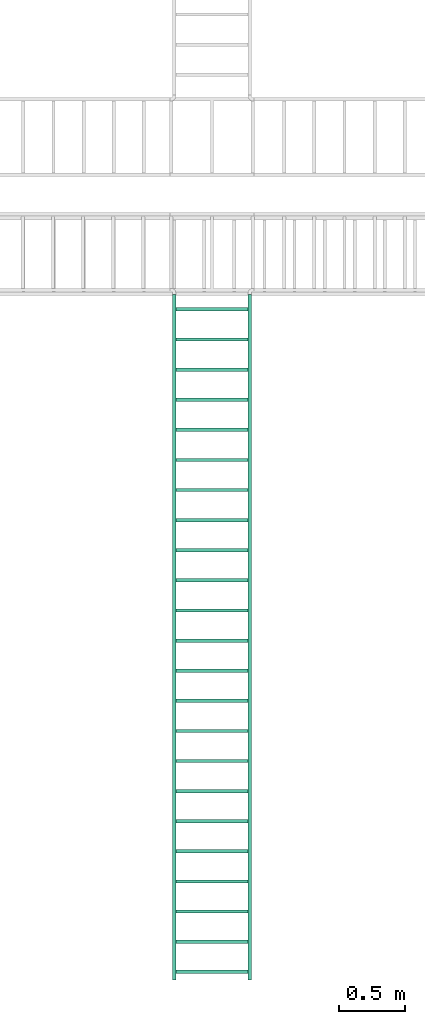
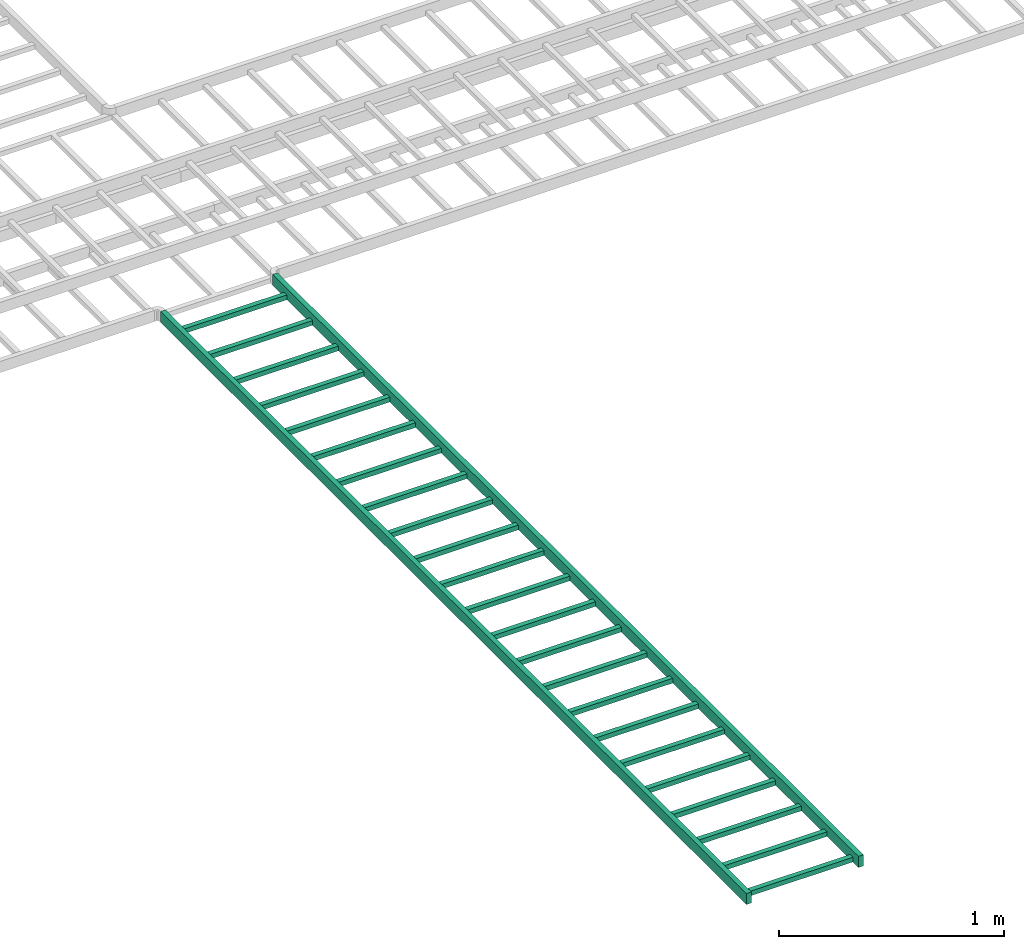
# One storey, part 3 of 7: 1 flow segment.
"""IFC2X3 building model written with IfcOpenShell, lengths in millimetres."""

from ifc_helpers import new_model, entity, si_unit, converted_unit, derived_unit, direction, frame, place, context, subcontext, project, spatial, faceted_brep, type_object, element, save


model = new_model("IFC2X3")

# Units and contexts
model_context = context("Model", 3, precision=0.01, world=frame((0.0, 4.29681676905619e-09, 0.0)), true_north=direction((4.01073788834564e-13, 1.0)))
plan_context = context("Plan", 3, precision=0.01, world=frame((0.0, 4.29681676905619e-09, 0.0)), true_north=direction((4.01073788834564e-13, 1.0)))
body_context = subcontext(model_context, "Body", "Model", "MODEL_VIEW")
ifc_project = project(units=[converted_unit("PLANEANGLEUNIT", "DEGREE", entity("IfcPositiveLengthMeasure", 0.0174532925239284), si_unit("PLANEANGLEUNIT", "RADIAN"), dimensions=[0, 0, 0, 0, 0, 0, 0]), si_unit("AREAUNIT", "SQUARE_METRE"), si_unit("LENGTHUNIT", "METRE", prefix="MILLI"), si_unit("MASSUNIT", "GRAM", prefix="KILO"), si_unit("POWERUNIT", "WATT"), si_unit("PRESSUREUNIT", "PASCAL", prefix="KILO"), si_unit("FORCEUNIT", "NEWTON", prefix="KILO"), si_unit("ELECTRICVOLTAGEUNIT", "VOLT"), si_unit("ELECTRICCURRENTUNIT", "AMPERE"), si_unit("THERMODYNAMICTEMPERATUREUNIT", "DEGREE_CELSIUS"), si_unit("TIMEUNIT", "SECOND"), si_unit("VOLUMEUNIT", "CUBIC_METRE"), derived_unit("LINEARVELOCITYUNIT", [(si_unit("LENGTHUNIT", "METRE"), 1), (si_unit("TIMEUNIT", "SECOND"), -1)]), derived_unit("VOLUMETRICFLOWRATEUNIT", [(si_unit("VOLUMEUNIT", "CUBIC_METRE"), 1), (si_unit("TIMEUNIT", "SECOND"), -1)]), derived_unit("THERMALTRANSMITTANCEUNIT", [(si_unit("POWERUNIT", "WATT"), 1), (si_unit("THERMODYNAMICTEMPERATUREUNIT", "KELVIN"), -1), (si_unit("AREAUNIT", "SQUARE_METRE"), -1)]), derived_unit("SOUNDPRESSUREUNIT", [(si_unit("PRESSUREUNIT", "PASCAL"), 1)])], contexts=[model_context, plan_context])

# Site, building, storey
site_placement = place(None, frame((0.0, -4.29681676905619e-09, 0.0), z_axis=(0.0, 0.0, 1.0), x_axis=(1.0, 0.0, 0.0)))
site = spatial("IfcSite", under=ifc_project, at=site_placement, Name="ENGM", CompositionType="ELEMENT")
building_placement = place(site_placement, frame((0.0, 4.29681676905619e-09, 0.0), z_axis=(0.0, 0.0, 1.0), x_axis=(1.0, 0.0, 0.0)))
building = spatial("IfcBuilding", under=site, at=building_placement, Name="TS", CompositionType="ELEMENT")
storey_placement = place(building_placement, frame((0.0, 0.0, 207370.0), z_axis=(0.0, 0.0, 1.0), x_axis=(1.0, 0.0, 0.0)))
storey = spatial("IfcBuildingStorey", under=building, at=storey_placement, Name="Nivå E", CompositionType="ELEMENT", Elevation=207370.0)

# Flow segment
cable_carrier_segment_type = type_object("IfcCableCarrierSegmentType", Name="Kabelbro", PredefinedType="CABLELADDERSEGMENT")
flow_segment_placement = place(storey_placement, frame((720501.36631, 433875.5316, 2635.0), z_axis=(0.0, 0.0, 1.0), x_axis=(0.0, 1.0, 0.0)))
element("IfcFlowSegment", 1, at=flow_segment_placement, inside=storey, type_object=cable_carrier_segment_type, Name="Kabelbro", context=body_context, shape_type="Brep", body=[
    faceted_brep([(698.50002, -274.60001, -4.6), (698.50002, -274.60001, -30.0), (673.09998, -274.60001, -30.0), (673.09998, -274.60001, -4.6), (673.09998, 274.60001, -30.0), (698.50002, 274.60001, -30.0), (698.50002, 274.60001, -4.6), (673.09998, 274.60001, -4.6), (927.10002, -274.60001, -4.6), (927.10002, -274.60001, -30.0), (901.69998, -274.60001, -30.0), (901.69998, -274.60001, -4.6), (901.69998, 274.60001, -30.0), (927.10002, 274.60001, -30.0), (927.10002, 274.60001, -4.6), (901.69998, 274.60001, -4.6), (1155.70002, -274.60001, -4.6), (1155.70002, -274.60001, -30.0), (1130.29998, -274.60001, -30.0), (1130.29998, -274.60001, -4.6), (1130.29998, 274.60001, -30.0), (1155.70002, 274.60001, -30.0), (1155.70002, 274.60001, -4.6), (1130.29998, 274.60001, -4.6), (1384.29995, -274.60001, -4.6), (1384.29995, -274.60001, -30.0), (1358.90005, -274.60001, -30.0), (1358.90005, -274.60001, -4.6), (1358.90005, 274.60001, -30.0), (1384.29995, 274.60001, -30.0), (1384.29995, 274.60001, -4.6), (1358.90005, 274.60001, -4.6), (1612.89995, -274.60001, -4.6), (1612.89995, -274.60001, -30.0), (1587.50005, -274.60001, -30.0), (1587.50005, -274.60001, -4.6), (1587.50005, 274.60001, -30.0), (1612.89995, 274.60001, -30.0), (1612.89995, 274.60001, -4.6), (1587.50005, 274.60001, -4.6), (1841.49995, -274.60001, -4.6), (1841.49995, -274.60001, -30.0), (1816.10005, -274.60001, -30.0), (1816.10005, -274.60001, -4.6), (1816.10005, 274.60001, -30.0), (1841.49995, 274.60001, -30.0), (1841.49995, 274.60001, -4.6), (1816.10005, 274.60001, -4.6), (2070.09995, -274.60001, -4.6), (2070.09995, -274.60001, -30.0), (2044.70005, -274.60001, -30.0), (2044.70005, -274.60001, -4.6), (2044.70005, 274.60001, -30.0), (2070.09995, 274.60001, -30.0), (2070.09995, 274.60001, -4.6), (2044.70005, 274.60001, -4.6), (2298.69995, -274.60001, -4.6), (2298.69995, -274.60001, -30.0), (2273.30005, -274.60001, -30.0), (2273.30005, -274.60001, -4.6), (2273.30005, 274.60001, -30.0), (2298.69995, 274.60001, -30.0), (2298.69995, 274.60001, -4.6), (2273.30005, 274.60001, -4.6), (2527.3001, -274.60001, -4.6), (2527.3001, -274.60001, -30.0), (2501.8999, -274.60001, -30.0), (2501.8999, -274.60001, -4.6), (2501.8999, 274.60001, -30.0), (2527.3001, 274.60001, -30.0), (2527.3001, 274.60001, -4.6), (2501.8999, 274.60001, -4.6), (2755.9001, -274.60001, -4.6), (2755.9001, -274.60001, -30.0), (2730.4999, -274.60001, -30.0), (2730.4999, -274.60001, -4.6), (2730.4999, 274.60001, -30.0), (2755.9001, 274.60001, -30.0), (2755.9001, 274.60001, -4.6), (2730.4999, 274.60001, -4.6), (2984.5001, -274.60001, -4.6), (2984.5001, -274.60001, -30.0), (2959.0999, -274.60001, -30.0), (2959.0999, -274.60001, -4.6), (2959.0999, 274.60001, -30.0), (2984.5001, 274.60001, -30.0), (2984.5001, 274.60001, -4.6), (2959.0999, 274.60001, -4.6), (3213.1001, -274.60001, -4.6), (3213.1001, -274.60001, -30.0), (3187.6999, -274.60001, -30.0), (3187.6999, -274.60001, -4.6), (3187.6999, 274.60001, -30.0), (3213.1001, 274.60001, -30.0), (3213.1001, 274.60001, -4.6), (3187.6999, 274.60001, -4.6), (3441.7001, -274.60001, -4.6), (3441.7001, -274.60001, -30.0), (3416.2999, -274.60001, -30.0), (3416.2999, -274.60001, -4.6), (3416.2999, 274.60001, -30.0), (3441.7001, 274.60001, -30.0), (3441.7001, 274.60001, -4.6), (3416.2999, 274.60001, -4.6), (3670.3001, -274.60001, -4.6), (3670.3001, -274.60001, -30.0), (3644.8999, -274.60001, -30.0), (3644.8999, -274.60001, -4.6), (3644.8999, 274.60001, -30.0), (3670.3001, 274.60001, -30.0), (3670.3001, 274.60001, -4.6), (3644.8999, 274.60001, -4.6), (3898.9001, -274.60001, -4.6), (3898.9001, -274.60001, -30.0), (3873.4999, -274.60001, -30.0), (3873.4999, -274.60001, -4.6), (3873.4999, 274.60001, -30.0), (3898.9001, 274.60001, -30.0), (3898.9001, 274.60001, -4.6), (3873.4999, 274.60001, -4.6), (4127.5001, -274.60001, -4.6), (4127.5001, -274.60001, -30.0), (4102.0999, -274.60001, -30.0), (4102.0999, -274.60001, -4.6), (4102.0999, 274.60001, -30.0), (4127.5001, 274.60001, -30.0), (4127.5001, 274.60001, -4.6), (4102.0999, 274.60001, -4.6), (4356.1001, -274.60001, -4.6), (4356.1001, -274.60001, -30.0), (4330.6999, -274.60001, -30.0), (4330.6999, -274.60001, -4.6), (4330.6999, 274.60001, -30.0), (4356.1001, 274.60001, -30.0), (4356.1001, 274.60001, -4.6), (4330.6999, 274.60001, -4.6), (4584.7001, -274.60001, -4.6), (4584.7001, -274.60001, -30.0), (4559.2999, -274.60001, -30.0), (4559.2999, -274.60001, -4.6), (4559.2999, 274.60001, -30.0), (4584.7001, 274.60001, -30.0), (4584.7001, 274.60001, -4.6), (4559.2999, 274.60001, -4.6), (4813.3001, -274.60001, -4.6), (4813.3001, -274.60001, -30.0), (4787.8999, -274.60001, -30.0), (4787.8999, -274.60001, -4.6), (4787.8999, 274.60001, -30.0), (4813.3001, 274.60001, -30.0), (4813.3001, 274.60001, -4.6), (4787.8999, 274.60001, -4.6), (5041.89981, -274.60001, -4.6), (5041.89981, -274.60001, -30.0), (5016.50019, -274.60001, -30.0), (5016.50019, -274.60001, -4.6), (5016.50019, 274.60001, -30.0), (5041.89981, 274.60001, -30.0), (5041.89981, 274.60001, -4.6), (5016.50019, 274.60001, -4.6), (5270.49981, -274.60001, -4.6), (5270.49981, -274.60001, -30.0), (5245.10019, -274.60001, -30.0), (5245.10019, -274.60001, -4.6), (5245.10019, 274.60001, -30.0), (5270.49981, 274.60001, -30.0), (5270.49981, 274.60001, -4.6), (5245.10019, 274.60001, -4.6), (5499.09981, -274.60001, -4.6), (5499.09981, -274.60001, -30.0), (5473.70019, -274.60001, -30.0), (5473.70019, -274.60001, -4.6), (5473.70019, 274.60001, -30.0), (5499.09981, 274.60001, -30.0), (5499.09981, 274.60001, -4.6), (5473.70019, 274.60001, -4.6), (5727.69981, -274.60001, -4.6), (5727.69981, -274.60001, -30.0), (5702.30019, -274.60001, -30.0), (5702.30019, -274.60001, -4.6), (5702.30019, 274.60001, -30.0), (5727.69981, 274.60001, -30.0), (5727.69981, 274.60001, -4.6), (5702.30019, 274.60001, -4.6), (5829.86159, -300.0, -30.0), (5829.86159, -300.0, 30.0), (5829.86159, -274.60001, 30.0), (5829.86159, -274.60001, -30.0), (5829.86159, 274.60001, -30.0), (5829.86159, 274.60001, 30.0), (5829.86159, 300.0, 30.0), (5829.86159, 300.0, -30.0), (623.476388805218, -300.0, -23.5832810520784), (623.476388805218, -300.0, 30.0), (623.476388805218, -300.0, -30.0), (623.476388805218, -297.283590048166, 30.0), (623.476388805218, -274.60001, 30.0), (623.476388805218, -274.60001, 23.5832810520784), (623.476388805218, -274.60001, -30.0), (623.476388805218, -277.316419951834, -30.0), (623.476388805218, 300.0, 23.5832810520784), (623.476388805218, 300.0, -30.0), (623.476388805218, 300.0, 30.0), (623.476388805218, 297.283590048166, -30.0), (623.476388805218, 274.60001, -30.0), (623.476388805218, 274.60001, -23.5832810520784), (623.476388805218, 274.60001, 30.0), (623.476388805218, 277.316419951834, 30.0)], [[[0, 1, 2]], [[2, 3, 0]], [[4, 5, 6]], [[6, 7, 4]], [[6, 1, 0]], [[1, 6, 5]], [[7, 0, 3]], [[0, 7, 6]], [[4, 3, 2]], [[3, 4, 7]], [[5, 2, 1]], [[2, 5, 4]], [[8, 9, 10]], [[10, 11, 8]], [[12, 13, 14]], [[14, 15, 12]], [[14, 9, 8]], [[9, 14, 13]], [[15, 8, 11]], [[8, 15, 14]], [[12, 11, 10]], [[11, 12, 15]], [[13, 10, 9]], [[10, 13, 12]], [[16, 17, 18]], [[18, 19, 16]], [[20, 21, 22]], [[22, 23, 20]], [[22, 17, 16]], [[17, 22, 21]], [[23, 16, 19]], [[16, 23, 22]], [[20, 19, 18]], [[19, 20, 23]], [[21, 18, 17]], [[18, 21, 20]], [[24, 25, 26]], [[26, 27, 24]], [[28, 29, 30]], [[30, 31, 28]], [[30, 25, 24]], [[25, 30, 29]], [[31, 24, 27]], [[24, 31, 30]], [[28, 27, 26]], [[27, 28, 31]], [[29, 26, 25]], [[26, 29, 28]], [[32, 33, 34]], [[34, 35, 32]], [[36, 37, 38]], [[38, 39, 36]], [[38, 33, 32]], [[33, 38, 37]], [[39, 32, 35]], [[32, 39, 38]], [[36, 35, 34]], [[35, 36, 39]], [[37, 34, 33]], [[34, 37, 36]], [[40, 41, 42]], [[42, 43, 40]], [[44, 45, 46]], [[46, 47, 44]], [[46, 41, 40]], [[41, 46, 45]], [[47, 40, 43]], [[40, 47, 46]], [[44, 43, 42]], [[43, 44, 47]], [[45, 42, 41]], [[42, 45, 44]], [[48, 49, 50]], [[50, 51, 48]], [[52, 53, 54]], [[54, 55, 52]], [[54, 49, 48]], [[49, 54, 53]], [[55, 48, 51]], [[48, 55, 54]], [[52, 51, 50]], [[51, 52, 55]], [[53, 50, 49]], [[50, 53, 52]], [[56, 57, 58]], [[58, 59, 56]], [[60, 61, 62]], [[62, 63, 60]], [[62, 57, 56]], [[57, 62, 61]], [[63, 56, 59]], [[56, 63, 62]], [[60, 59, 58]], [[59, 60, 63]], [[61, 58, 57]], [[58, 61, 60]], [[64, 65, 66]], [[66, 67, 64]], [[68, 69, 70]], [[70, 71, 68]], [[70, 65, 64]], [[65, 70, 69]], [[71, 64, 67]], [[64, 71, 70]], [[68, 67, 66]], [[67, 68, 71]], [[69, 66, 65]], [[66, 69, 68]], [[72, 73, 74]], [[74, 75, 72]], [[76, 77, 78]], [[78, 79, 76]], [[78, 73, 72]], [[73, 78, 77]], [[79, 72, 75]], [[72, 79, 78]], [[76, 75, 74]], [[75, 76, 79]], [[77, 74, 73]], [[74, 77, 76]], [[80, 81, 82]], [[82, 83, 80]], [[84, 85, 86]], [[86, 87, 84]], [[86, 81, 80]], [[81, 86, 85]], [[87, 80, 83]], [[80, 87, 86]], [[84, 83, 82]], [[83, 84, 87]], [[85, 82, 81]], [[82, 85, 84]], [[88, 89, 90]], [[90, 91, 88]], [[92, 93, 94]], [[94, 95, 92]], [[94, 89, 88]], [[89, 94, 93]], [[95, 88, 91]], [[88, 95, 94]], [[92, 91, 90]], [[91, 92, 95]], [[93, 90, 89]], [[90, 93, 92]], [[96, 97, 98]], [[98, 99, 96]], [[100, 101, 102]], [[102, 103, 100]], [[102, 97, 96]], [[97, 102, 101]], [[103, 96, 99]], [[96, 103, 102]], [[100, 99, 98]], [[99, 100, 103]], [[101, 98, 97]], [[98, 101, 100]], [[104, 105, 106]], [[106, 107, 104]], [[108, 109, 110]], [[110, 111, 108]], [[110, 105, 104]], [[105, 110, 109]], [[111, 104, 107]], [[104, 111, 110]], [[108, 107, 106]], [[107, 108, 111]], [[109, 106, 105]], [[106, 109, 108]], [[112, 113, 114]], [[114, 115, 112]], [[116, 117, 118]], [[118, 119, 116]], [[118, 113, 112]], [[113, 118, 117]], [[119, 112, 115]], [[112, 119, 118]], [[116, 115, 114]], [[115, 116, 119]], [[117, 114, 113]], [[114, 117, 116]], [[120, 121, 122]], [[122, 123, 120]], [[124, 125, 126]], [[126, 127, 124]], [[126, 121, 120]], [[121, 126, 125]], [[127, 120, 123]], [[120, 127, 126]], [[124, 123, 122]], [[123, 124, 127]], [[125, 122, 121]], [[122, 125, 124]], [[128, 129, 130]], [[130, 131, 128]], [[132, 133, 134]], [[134, 135, 132]], [[134, 129, 128]], [[129, 134, 133]], [[135, 128, 131]], [[128, 135, 134]], [[132, 131, 130]], [[131, 132, 135]], [[133, 130, 129]], [[130, 133, 132]], [[136, 137, 138]], [[138, 139, 136]], [[140, 141, 142]], [[142, 143, 140]], [[142, 137, 136]], [[137, 142, 141]], [[143, 136, 139]], [[136, 143, 142]], [[140, 139, 138]], [[139, 140, 143]], [[141, 138, 137]], [[138, 141, 140]], [[144, 145, 146]], [[146, 147, 144]], [[148, 149, 150]], [[150, 151, 148]], [[150, 145, 144]], [[145, 150, 149]], [[151, 144, 147]], [[144, 151, 150]], [[148, 147, 146]], [[147, 148, 151]], [[149, 146, 145]], [[146, 149, 148]], [[152, 153, 154]], [[154, 155, 152]], [[156, 157, 158]], [[158, 159, 156]], [[158, 153, 152]], [[153, 158, 157]], [[159, 152, 155]], [[152, 159, 158]], [[156, 155, 154]], [[155, 156, 159]], [[157, 154, 153]], [[154, 157, 156]], [[160, 161, 162]], [[162, 163, 160]], [[164, 165, 166]], [[166, 167, 164]], [[166, 161, 160]], [[161, 166, 165]], [[167, 160, 163]], [[160, 167, 166]], [[164, 163, 162]], [[163, 164, 167]], [[165, 162, 161]], [[162, 165, 164]], [[168, 169, 170]], [[170, 171, 168]], [[172, 173, 174]], [[174, 175, 172]], [[174, 169, 168]], [[169, 174, 173]], [[175, 168, 171]], [[168, 175, 174]], [[172, 171, 170]], [[171, 172, 175]], [[173, 170, 169]], [[170, 173, 172]], [[176, 177, 178]], [[178, 179, 176]], [[180, 181, 182]], [[182, 183, 180]], [[182, 177, 176]], [[177, 182, 181]], [[183, 176, 179]], [[176, 183, 182]], [[180, 179, 178]], [[179, 180, 183]], [[181, 178, 177]], [[178, 181, 180]], [[184, 185, 186]], [[186, 187, 184]], [[188, 189, 190]], [[190, 191, 188]], [[192, 193, 185]], [[194, 192, 185, 184]], [[195, 196, 186]], [[193, 195, 186, 185]], [[197, 198, 187]], [[196, 197, 187, 186]], [[199, 194, 184]], [[198, 199, 184, 187]], [[200, 201, 191]], [[202, 200, 191, 190]], [[203, 204, 188]], [[201, 203, 188, 191]], [[205, 206, 189]], [[204, 205, 189, 188]], [[207, 202, 190]], [[206, 207, 190, 189]], [[194, 199, 198, 197, 196, 195, 193, 192]], [[202, 207, 206, 205, 204, 203, 201, 200]]], orient=[[False], [False], [False], [False], [False], [False], [False], [False], [False], [False], [False], [False], [False], [False], [False], [False], [False], [False], [False], [False], [False], [False], [False], [False], [False], [False], [False], [False], [False], [False], [False], [False], [False], [False], [False], [False], [False], [False], [False], [False], [False], [False], [False], [False], [False], [False], [False], [False], [False], [False], [False], [False], [False], [False], [False], [False], [False], [False], [False], [False], [False], [False], [False], [False], [False], [False], [False], [False], [False], [False], [False], [False], [False], [False], [False], [False], [False], [False], [False], [False], [False], [False], [False], [False], [False], [False], [False], [False], [False], [False], [False], [False], [False], [False], [False], [False], [False], [False], [False], [False], [False], [False], [False], [False], [False], [False], [False], [False], [False], [False], [False], [False], [False], [False], [False], [False], [False], [False], [False], [False], [False], [False], [False], [False], [False], [False], [False], [False], [False], [False], [False], [False], [False], [False], [False], [False], [False], [False], [False], [False], [False], [False], [False], [False], [False], [False], [False], [False], [False], [False], [False], [False], [False], [False], [False], [False], [False], [False], [False], [False], [False], [False], [False], [False], [False], [False], [False], [False], [False], [False], [False], [False], [False], [False], [False], [False], [False], [False], [False], [False], [False], [False], [False], [False], [False], [False], [False], [False], [False], [False], [False], [False], [False], [False], [False], [False], [False], [False], [False], [False], [False], [False], [False], [False], [False], [False], [False], [False], [False], [False], [False], [False], [False], [False], [False], [False], [False], [False], [False], [False], [False], [False], [False], [False], [False], [False], [False], [False], [False], [False], [False], [False], [False], [False], [False], [False], [False], [False], [False], [False], [False], [False], [False], [False], [False], [False], [False], [False], [False], [False], [False], [False], [False], [False], [False], [False], [False], [False], [False], [False], [False], [False], [False], [False], [False], [False], [False], [False], [False], [False], [False], [False], [False], [False], [False], [False], [False], [False], [False], [False], [False], [False], [False], [False], [False], [False], [False], [False], [False], [False], [False], [False], [False], [False], [False], [False], [False], [False]]),
])

save(model, "model.ifc")
